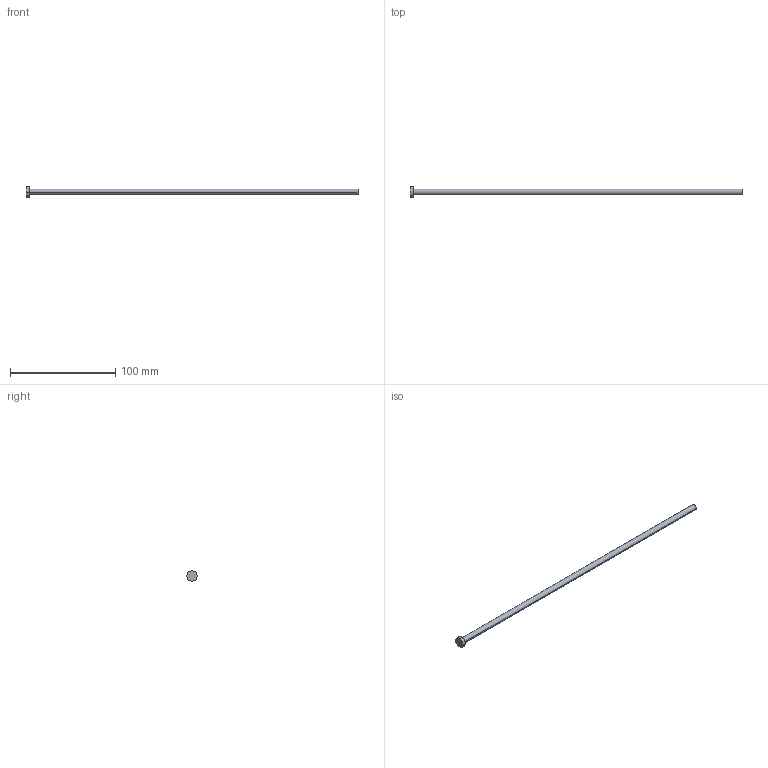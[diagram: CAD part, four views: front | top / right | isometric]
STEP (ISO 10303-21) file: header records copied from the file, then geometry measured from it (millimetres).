
FILE_DESCRIPTION (( 'STEP AP214' ), '1' );
FILE_NAME ('A-5,5x315.STEP', '2020-05-29T15:32:21', ( 'August' ), ( '' ), 'SwSTEP 2.0', 'SolidWorks 2018', '' );
FILE_SCHEMA (( 'AUTOMOTIVE_DESIGN' ));
Length unit declared in the file: millimetre
Products named in the file (1): A-5,5x315
Bounding box: 315 x 10 x 10 mm (x, y, z)
Volume: 7648.5 mm3; surface area: 5640.1 mm2
Topology: 1 solids, 1 shells, 9 faces, 16 edges, 10 vertices
Faces by surface type: cylinder 4, plane 3, torus 2
Entity records: 260 total; most frequent: DIRECTION 48, CARTESIAN_POINT 36, ORIENTED_EDGE 32, AXIS2_PLACEMENT_3D 22, EDGE_CURVE 16, CIRCLE 12, VERTEX_POINT 10, EDGE_LOOP 10
